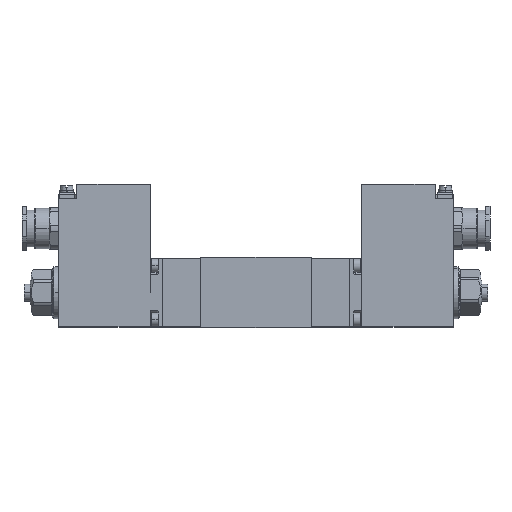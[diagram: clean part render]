
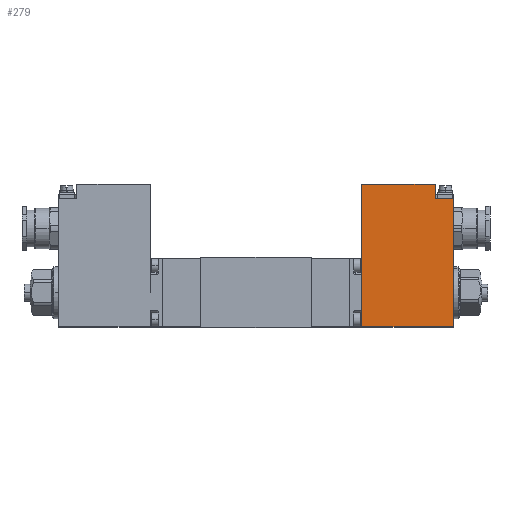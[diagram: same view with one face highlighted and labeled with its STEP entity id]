
A CAD part, top view. The second image highlights one B-rep face of the part: STEP entity #279.
In plain terms, the highlighted planar face has unit normal (0, 0, 1).
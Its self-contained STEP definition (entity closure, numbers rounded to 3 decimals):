
#279 = ADVANCED_FACE ( 'NONE', ( #17909 ), #29072, .F. ) ;
#439 = LINE ( 'NONE', #25490, #10071 ) ;
#3992 = EDGE_LOOP ( 'NONE', ( #29564, #4366, #11064, #12582, #37336, #40165 ) ) ;
#4366 = ORIENTED_EDGE ( 'NONE', *, *, #32117, .T. ) ;
#5654 = CARTESIAN_POINT ( 'NONE',  ( 153.4, 70.725, 22.5 ) ) ;
#5670 = CARTESIAN_POINT ( 'NONE',  ( 105.4, -22.575, 22.5 ) ) ;
#6422 = CARTESIAN_POINT ( 'NONE',  ( 165.4, -22.575, 22.5 ) ) ;
#7539 = VECTOR ( 'NONE', #36354, 1000. ) ;
#8408 = LINE ( 'NONE', #6422, #16919 ) ;
#10071 = VECTOR ( 'NONE', #25637, 1000. ) ;
#10082 = DIRECTION ( 'NONE',  ( 0., 1., 0. ) ) ;
#10584 = AXIS2_PLACEMENT_3D ( 'NONE', #16439, #26522, #19487 ) ;
#10991 = EDGE_CURVE ( 'NONE', #43256, #29292, #12566, .T. ) ;
#11016 = CARTESIAN_POINT ( 'NONE',  ( 165.4, 61.225, 22.5 ) ) ;
#11064 = ORIENTED_EDGE ( 'NONE', *, *, #20357, .T. ) ;
#11359 = CARTESIAN_POINT ( 'NONE',  ( 153.4, 61.225, 22.5 ) ) ;
#12566 = LINE ( 'NONE', #15825, #22228 ) ;
#12582 = ORIENTED_EDGE ( 'NONE', *, *, #10991, .F. ) ;
#13032 = CARTESIAN_POINT ( 'NONE',  ( 165.4, -22.575, 22.5 ) ) ;
#15825 = CARTESIAN_POINT ( 'NONE',  ( 165.4, 61.225, 22.5 ) ) ;
#16439 = CARTESIAN_POINT ( 'NONE',  ( 97.3, -22.575, 22.5 ) ) ;
#16919 = VECTOR ( 'NONE', #10082, 1000. ) ;
#17179 = LINE ( 'NONE', #43508, #7539 ) ;
#17574 = LINE ( 'NONE', #11359, #27278 ) ;
#17909 = FACE_OUTER_BOUND ( 'NONE', #3992, .T. ) ;
#19487 = DIRECTION ( 'NONE',  ( 0., -1., 0. ) ) ;
#20357 = EDGE_CURVE ( 'NONE', #43310, #29292, #8408, .T. ) ;
#21144 = VERTEX_POINT ( 'NONE', #42998 ) ;
#21770 = LINE ( 'NONE', #41642, #31456 ) ;
#22228 = VECTOR ( 'NONE', #45119, 1000. ) ;
#24968 = VERTEX_POINT ( 'NONE', #5654 ) ;
#25490 = CARTESIAN_POINT ( 'NONE',  ( 105.4, 70.725, 22.5 ) ) ;
#25637 = DIRECTION ( 'NONE',  ( 1., 0., 0. ) ) ;
#26522 = DIRECTION ( 'NONE',  ( 0., 0., -1. ) ) ;
#27278 = VECTOR ( 'NONE', #33156, 1000. ) ;
#29072 = PLANE ( 'NONE',  #10584 ) ;
#29292 = VERTEX_POINT ( 'NONE', #11016 ) ;
#29564 = ORIENTED_EDGE ( 'NONE', *, *, #33501, .F. ) ;
#31456 = VECTOR ( 'NONE', #37797, 1000. ) ;
#32117 = EDGE_CURVE ( 'NONE', #44671, #43310, #17179, .T. ) ;
#33156 = DIRECTION ( 'NONE',  ( 0., 1., 0. ) ) ;
#33501 = EDGE_CURVE ( 'NONE', #44671, #21144, #21770, .T. ) ;
#36354 = DIRECTION ( 'NONE',  ( 1., 0., 0. ) ) ;
#37244 = EDGE_CURVE ( 'NONE', #43256, #24968, #17574, .T. ) ;
#37336 = ORIENTED_EDGE ( 'NONE', *, *, #37244, .T. ) ;
#37797 = DIRECTION ( 'NONE',  ( 0., 1., 0. ) ) ;
#39122 = EDGE_CURVE ( 'NONE', #21144, #24968, #439, .T. ) ;
#40165 = ORIENTED_EDGE ( 'NONE', *, *, #39122, .F. ) ;
#41642 = CARTESIAN_POINT ( 'NONE',  ( 105.4, -22.575, 22.5 ) ) ;
#42998 = CARTESIAN_POINT ( 'NONE',  ( 105.4, 70.725, 22.5 ) ) ;
#43256 = VERTEX_POINT ( 'NONE', #45332 ) ;
#43310 = VERTEX_POINT ( 'NONE', #13032 ) ;
#43508 = CARTESIAN_POINT ( 'NONE',  ( 105.4, -22.575, 22.5 ) ) ;
#44671 = VERTEX_POINT ( 'NONE', #5670 ) ;
#45119 = DIRECTION ( 'NONE',  ( 1., 0., 0. ) ) ;
#45332 = CARTESIAN_POINT ( 'NONE',  ( 153.4, 61.225, 22.5 ) ) ;
